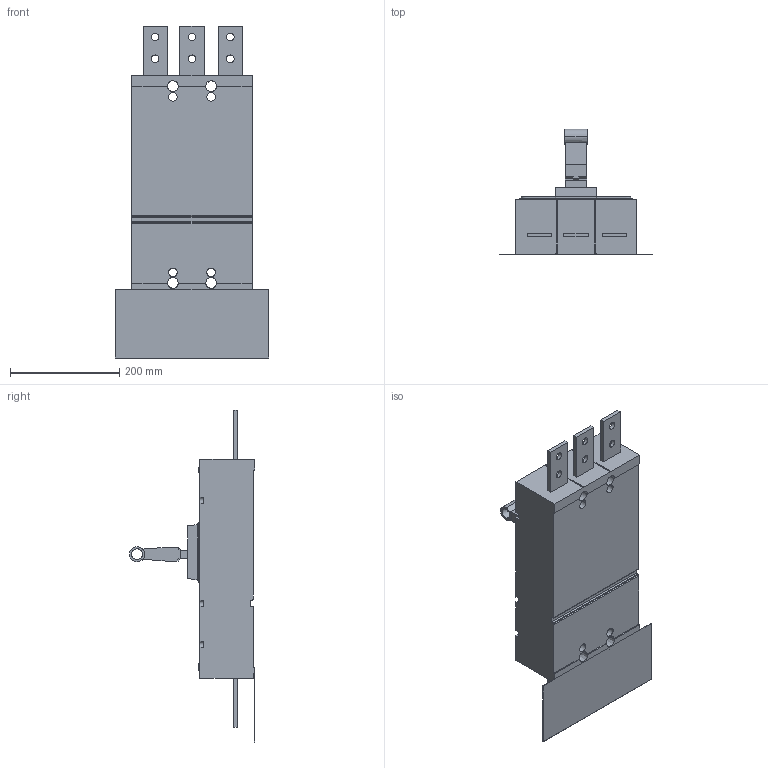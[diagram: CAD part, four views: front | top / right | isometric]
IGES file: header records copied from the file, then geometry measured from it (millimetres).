
Start section:  PTC IGES file: 29-metasol-mccb-1200af-3p.igs
Global section: file name: 29-metasol-mccb-1200af-3p.igs; native system: Pro/ENGINEER by Parametric Technology Corporation; preprocessor: 2010280; author: mgkimb; organization: Unknown; date: 20131029.143352; units: millimetre
Bounding box: 280 x 228.65 x 607 mm (x, y, z)
Surface area: 509910.9 mm2 (no closed solid volume)
Topology: 0 solids, 0 shells, 403 faces, 2198 edges, 2198 vertices
Faces by surface type: bspline 306, revolution 97
